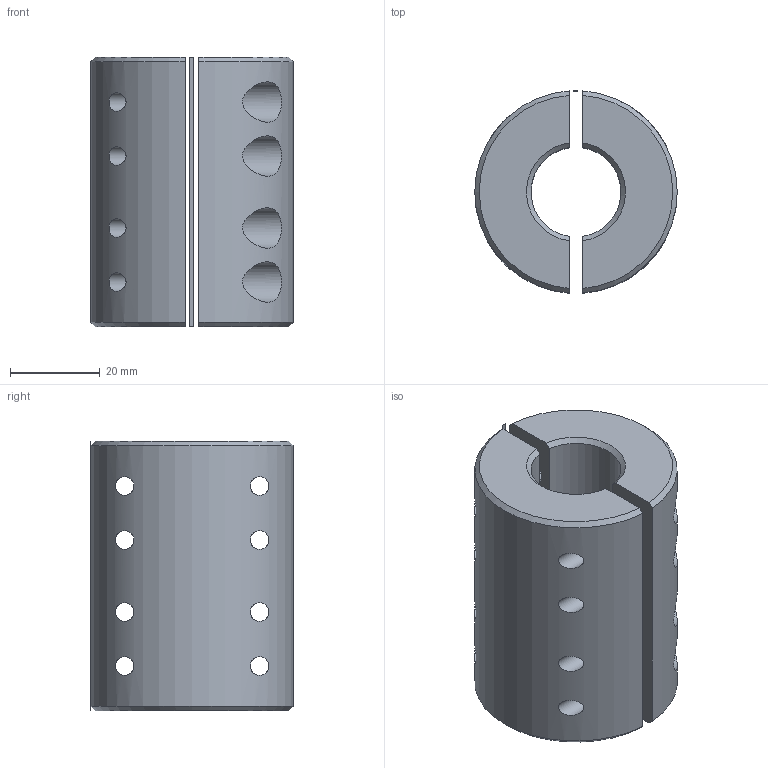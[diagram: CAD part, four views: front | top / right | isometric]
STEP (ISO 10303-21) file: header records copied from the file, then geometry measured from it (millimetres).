
FILE_DESCRIPTION( ( 'Unknown' ), '1' );
FILE_NAME( 'F:/navkite transat/construction/2016/3D ET ASSEMBLAGES/AMI/AMI 27.stp', 'Unknown', ( 'GMA' ), ( 'Unknown' ), 'XStep 1.0', 'Unknown', ' ' );
FILE_SCHEMA( ( 'automotive_design' ) );
Length unit declared in the file: millimetre
Products named in the file (3): 1; 2; 3
Bounding box: 45 x 44.95 x 60 mm (x, y, z)
Volume: 65676.3 mm3; surface area: 20090.4 mm2
Topology: 3 solids, 3 shells, 56 faces, 142 edges, 100 vertices
Faces by surface type: cylinder 29, plane 19, cone 8
Full cylindrical faces by diameter (mm): 4.134 x8, 5.2 x8, 9 x8
Entity records: 3050 total; most frequent: CARTESIAN_POINT 1341, DIRECTION 238, ORIENTED_EDGE 204, EDGE_LOOP 120, AXIS2_PLACEMENT_3D 109, EDGE_CURVE 102, VERTEX_POINT 84, FACE_OUTER_BOUND 80
